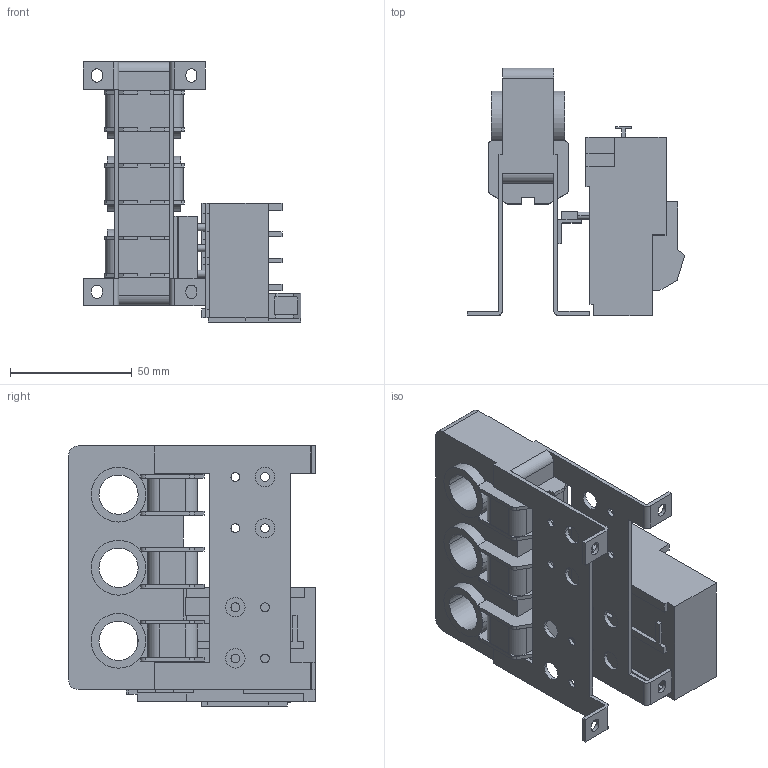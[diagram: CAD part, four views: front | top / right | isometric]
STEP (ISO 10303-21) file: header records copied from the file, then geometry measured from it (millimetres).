
FILE_DESCRIPTION (( 'STEP AP203' ), '1' );
FILE_NAME ('U85.STEP', '2014-04-30T12:13:59', ( '' ), ( '' ), 'SwSTEP 2.0', 'SolidWorks 2014', '' );
FILE_SCHEMA (( 'CONFIG_CONTROL_DESIGN' ));
Length unit declared in the file: millimetre
Products named in the file (1): U85
Bounding box: 89.35 x 101.4 x 106.8 mm (x, y, z)
Volume: 208279.8 mm3; surface area: 63189.1 mm2
Topology: 2 solids, 2 shells, 431 faces, 1254 edges, 832 vertices
Faces by surface type: plane 312, cylinder 119
Entity records: 14335 total; most frequent: CARTESIAN_POINT 2518, ORIENTED_EDGE 2508, DIRECTION 2358, EDGE_CURVE 1254, LINE 1014, VECTOR 1014, VERTEX_POINT 832, AXIS2_PLACEMENT_3D 672
